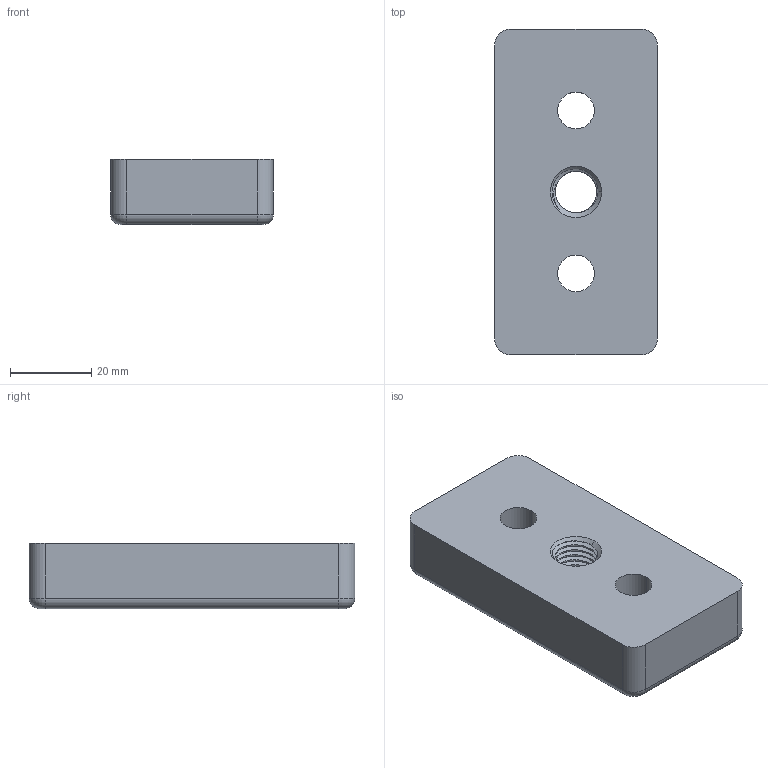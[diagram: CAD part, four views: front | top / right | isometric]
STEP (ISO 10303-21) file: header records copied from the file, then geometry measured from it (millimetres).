
FILE_DESCRIPTION (( 'STEP AP203' ), '1' );
FILE_NAME ('50384812_Fußplatte 8 ZN 40x80 M12.step', '2023-03-20T14:53:08', ( '' ), ( '' ), 'SwSTEP 2.0', 'SolidWorks 2021', '' );
FILE_SCHEMA (( 'CONFIG_CONTROL_DESIGN' ));
Length unit declared in the file: millimetre
Products named in the file (1): 50384812_Fußplatte 8 ZN 40x80 M12
Bounding box: 40 x 80 x 16 mm (x, y, z)
Volume: 45071.2 mm3; surface area: 11482.1 mm2
Topology: 1 solids, 1 shells, 57 faces, 149 edges, 96 vertices
Faces by surface type: cylinder 36, plane 8, cone 6, torus 4, bspline 3
Entity records: 5708 total; most frequent: CARTESIAN_POINT 4312, ORIENTED_EDGE 298, DIRECTION 251, EDGE_CURVE 149, AXIS2_PLACEMENT_3D 99, VERTEX_POINT 96, EDGE_LOOP 65, FACE_OUTER_BOUND 57
